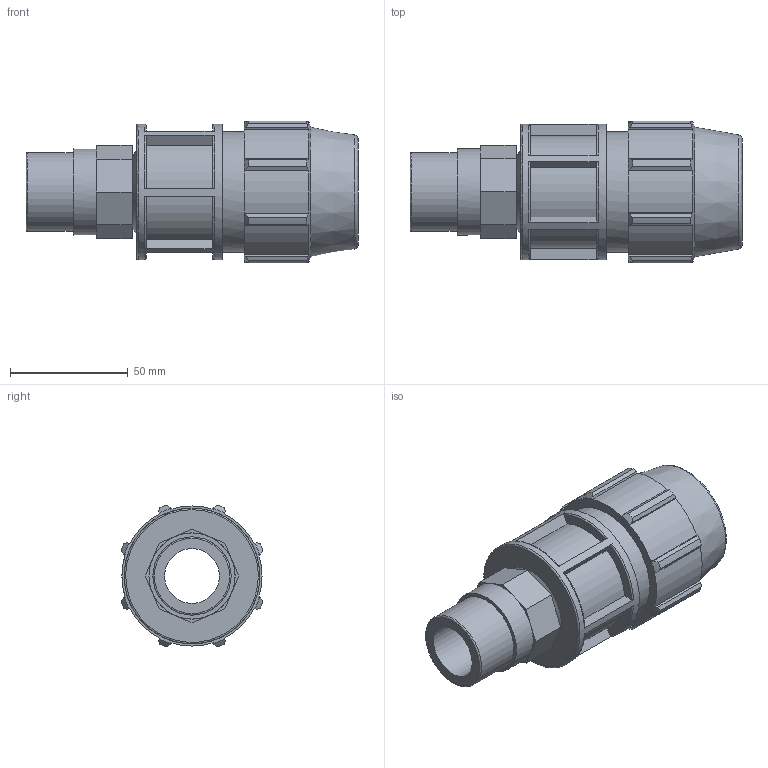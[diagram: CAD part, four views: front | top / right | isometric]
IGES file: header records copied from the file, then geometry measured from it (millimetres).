
Global section: file name: 077200032010_187200032010_0772060320100A.ipt; native system: Autodesk Inventor 2015; preprocessor: unknown; author: KIM; date: 20170606.174228; units: millimetre
Bounding box: 141 x 60.22 x 60.22 mm (x, y, z)
Volume: 167389.3 mm3; surface area: 43637.4 mm2
Topology: 1 solids, 1 shells, 137 faces, 367 edges, 244 vertices
Faces by surface type: plane 81, cylinder 26, revolution 19, cone 11
Full cylindrical faces by diameter (mm): 33.249 x1, 36.574 x1, 51.2 x1, 57.6 x1
